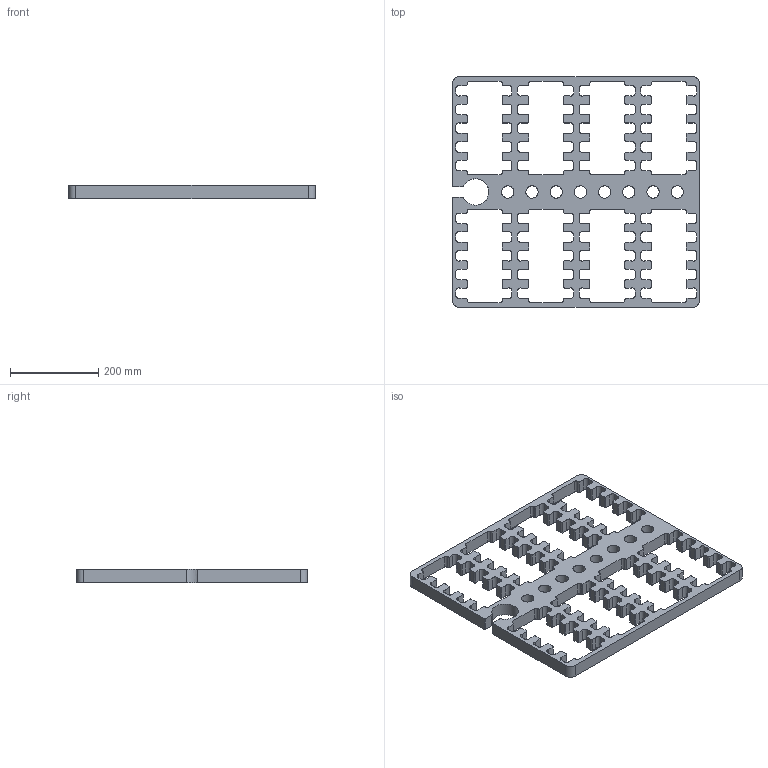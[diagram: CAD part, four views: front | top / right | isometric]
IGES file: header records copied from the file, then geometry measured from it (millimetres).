
Global section: file name: foam_5 v1; native system: unknown; preprocessor: unknown; author: unknown; organization: unknown; date: 20190213.104910; units: millimetre
Bounding box: 561.02 x 524.51 x 30 mm (x, y, z)
Volume: 3200139.2 mm3; surface area: 539828.8 mm2
Topology: 1 solids, 1 shells, 730 faces, 2184 edges, 1456 vertices
Faces by surface type: bspline 730
